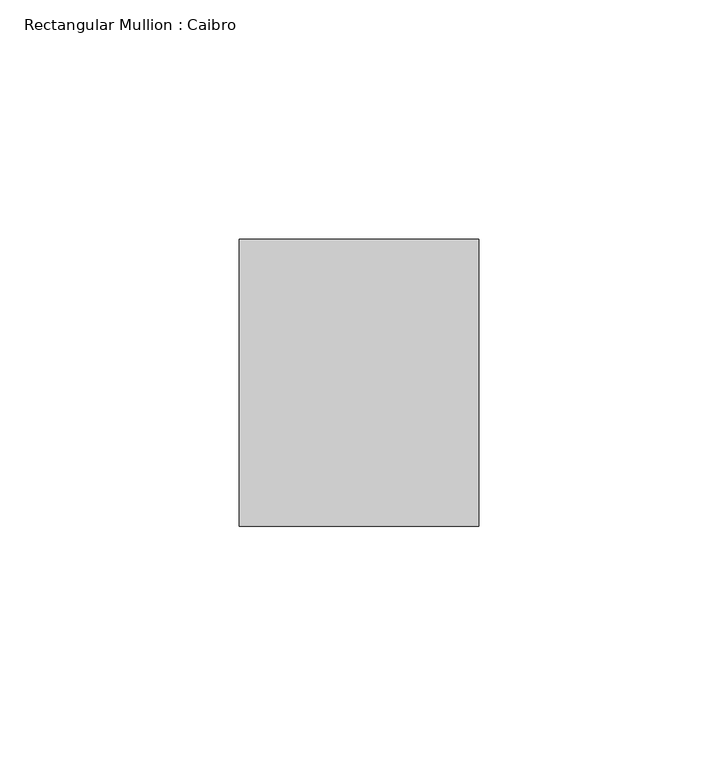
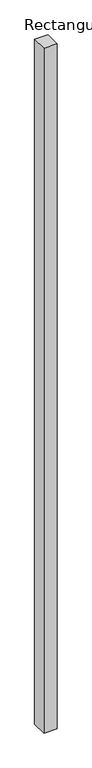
"""IFC4 building model written with IfcOpenShell, lengths in millimetres: member geometry, Rectangular Mullion : Caibro."""

from ifc_helpers import new_model, si_unit, frame, origin, place, context, project, spatial, polyline, outline, extrude, source, transform, mapped, element, save


def rectangular_mullion_caibro_c1b6c281(model_context):
    return source(origin(), model_context, "Body", "SweptSolid", [
        extrude(outline(polyline([(0.0, -60.0), (-50.0, -60.0), (-50.0, 0.0), (0.0, 0.0), (0.0, -60.0)])), frame((0.0, 0.0, -2757.5618379), z_axis=(0.0, 0.0, 1.0), x_axis=(1.0, 0.0, 0.0)), (0.0, 0.0, 1.0), 2757.5618379),
    ])


if __name__ == "__main__":
    model = new_model("IFC4")
    model_context = context("Model", 3, world=origin())
    ifc_project = project(units=[si_unit("LENGTHUNIT", "METRE", prefix="MILLI")], contexts=[model_context])
    site = spatial("IfcSite", under=ifc_project)
    building = spatial("IfcBuilding", under=site)
    placement = place(None, origin())
    rectangular_mullion_caibro_shape = rectangular_mullion_caibro_c1b6c281(model_context)
    element("IfcMember", 1, ObjectType="Rectangular Mullion : Caibro", at=placement, inside=building, context=model_context, shape_type="MappedRepresentation", body=[
        mapped(rectangular_mullion_caibro_shape, transform((0.0, 0.0, 0.0), x_axis=(1.0, 0.0, 0.0), y_axis=(0.0, 1.0, 0.0), z_axis=(0.0, 0.0, 1.0))),
    ])
    save(model, "model.ifc")
